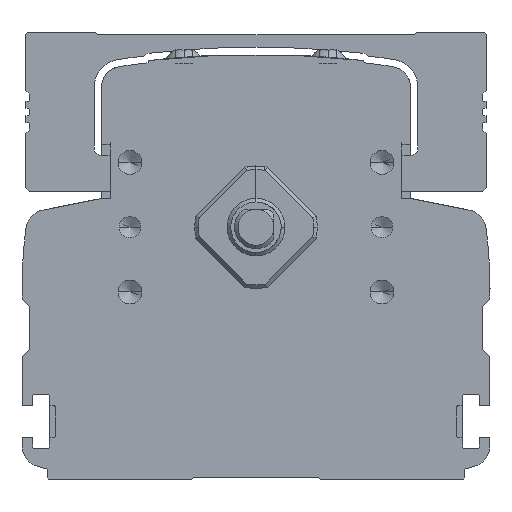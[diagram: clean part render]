
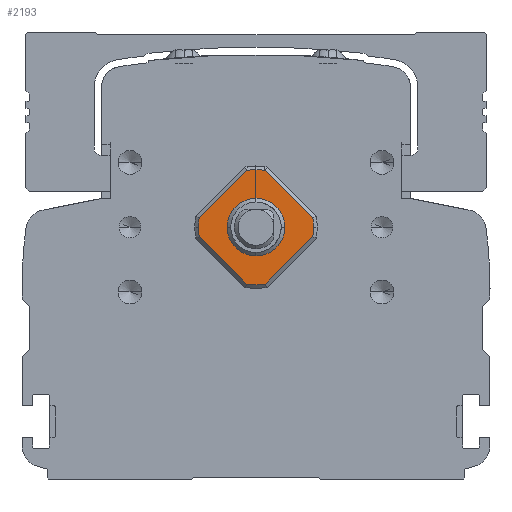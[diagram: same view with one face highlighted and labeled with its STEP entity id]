
A CAD part, front view. The second image highlights one B-rep face of the part: STEP entity #2193.
In plain terms, the highlighted planar face has unit normal (0, -1, 0).
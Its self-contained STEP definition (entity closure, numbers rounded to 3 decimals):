
#2193=ADVANCED_FACE('',(#5758,#5759),#5760,.T.);
#5758=FACE_OUTER_BOUND('',#11126,.T.);
#5759=FACE_BOUND('',#11127,.T.);
#5760=PLANE('',#11128);
#11126=EDGE_LOOP('',(#17394,#17395,#17396,#17397,#17398,#17399,#17400,#17401,#17402,#17403));
#11127=EDGE_LOOP('',(#17404,#17405));
#11128=AXIS2_PLACEMENT_3D('',#17406,#17407,#17408);
#17394=ORIENTED_EDGE('',*,*,#32389,.T.);
#17395=ORIENTED_EDGE('',*,*,#32390,.T.);
#17396=ORIENTED_EDGE('',*,*,#32391,.T.);
#17397=ORIENTED_EDGE('',*,*,#32392,.T.);
#17398=ORIENTED_EDGE('',*,*,#32393,.T.);
#17399=ORIENTED_EDGE('',*,*,#32394,.T.);
#17400=ORIENTED_EDGE('',*,*,#32395,.T.);
#17401=ORIENTED_EDGE('',*,*,#32396,.T.);
#17402=ORIENTED_EDGE('',*,*,#32397,.T.);
#17403=ORIENTED_EDGE('',*,*,#32398,.T.);
#17404=ORIENTED_EDGE('',*,*,#32399,.T.);
#17405=ORIENTED_EDGE('',*,*,#32400,.T.);
#17406=CARTESIAN_POINT('',(300.,33.,9.899));
#17407=DIRECTION('',(0.,-1.0,0.));
#17408=DIRECTION('',(1.0,0.,0.));
#32389=EDGE_CURVE('',#38703,#38704,#38705,.F.);
#32390=EDGE_CURVE('',#38704,#38706,#38707,.T.);
#32391=EDGE_CURVE('',#38706,#38708,#38709,.F.);
#32392=EDGE_CURVE('',#38708,#38710,#38711,.F.);
#32393=EDGE_CURVE('',#38710,#38712,#38713,.T.);
#32394=EDGE_CURVE('',#38712,#38714,#38715,.F.);
#32395=EDGE_CURVE('',#38714,#38716,#38717,.T.);
#32396=EDGE_CURVE('',#38716,#38718,#38719,.F.);
#32397=EDGE_CURVE('',#38718,#38720,#38721,.F.);
#32398=EDGE_CURVE('',#38720,#38703,#38722,.T.);
#32399=EDGE_CURVE('',#38723,#38724,#38725,.F.);
#32400=EDGE_CURVE('',#38724,#38723,#38726,.F.);
#38703=VERTEX_POINT('',#47797);
#38704=VERTEX_POINT('',#47798);
#38705=CIRCLE('',#47799,8.0);
#38706=VERTEX_POINT('',#47800);
#38707=LINE('',#47801,#47802);
#38708=VERTEX_POINT('',#47803);
#38709=CIRCLE('',#47804,8.0);
#38710=VERTEX_POINT('',#47805);
#38711=CIRCLE('',#47806,8.0);
#38712=VERTEX_POINT('',#47807);
#38713=LINE('',#47808,#47809);
#38714=VERTEX_POINT('',#47810);
#38715=CIRCLE('',#47811,8.0);
#38716=VERTEX_POINT('',#47812);
#38717=LINE('',#47813,#47814);
#38718=VERTEX_POINT('',#47815);
#38719=CIRCLE('',#47816,8.0);
#38720=VERTEX_POINT('',#47817);
#38721=CIRCLE('',#47818,8.0);
#38722=LINE('',#47819,#47820);
#38723=VERTEX_POINT('',#47821);
#38724=VERTEX_POINT('',#47822);
#38725=CIRCLE('',#47823,4.);
#38726=CIRCLE('',#47824,4.);
#47797=CARTESIAN_POINT('',(298.702,33.,-7.894));
#47798=CARTESIAN_POINT('',(301.298,33.,-7.894));
#47799=AXIS2_PLACEMENT_3D('',#59857,#59858,#59859);
#47800=CARTESIAN_POINT('',(307.894,33.,-1.298));
#47801=CARTESIAN_POINT('',(301.298,33.,-7.894));
#47802=VECTOR('',#59860,1000.0);
#47803=CARTESIAN_POINT('',(308.,33.,0.));
#47804=AXIS2_PLACEMENT_3D('',#59861,#59862,#59863);
#47805=CARTESIAN_POINT('',(307.894,33.,1.298));
#47806=AXIS2_PLACEMENT_3D('',#59864,#59865,#59866);
#47807=CARTESIAN_POINT('',(301.298,33.,7.894));
#47808=CARTESIAN_POINT('',(307.894,33.,1.298));
#47809=VECTOR('',#59867,1000.0);
#47810=CARTESIAN_POINT('',(298.702,33.,7.894));
#47811=AXIS2_PLACEMENT_3D('',#59868,#59869,#59870);
#47812=CARTESIAN_POINT('',(292.106,33.,1.298));
#47813=CARTESIAN_POINT('',(298.702,33.,7.894));
#47814=VECTOR('',#59871,1000.0);
#47815=CARTESIAN_POINT('',(292.,33.,0.));
#47816=AXIS2_PLACEMENT_3D('',#59872,#59873,#59874);
#47817=CARTESIAN_POINT('',(292.106,33.,-1.298));
#47818=AXIS2_PLACEMENT_3D('',#59875,#59876,#59877);
#47819=CARTESIAN_POINT('',(292.106,33.,-1.298));
#47820=VECTOR('',#59878,1000.0);
#47821=CARTESIAN_POINT('',(304.,33.,0.));
#47822=CARTESIAN_POINT('',(296.,33.,0.));
#47823=AXIS2_PLACEMENT_3D('',#59879,#59880,#59881);
#47824=AXIS2_PLACEMENT_3D('',#59882,#59883,#59884);
#59857=CARTESIAN_POINT('',(300.,33.,0.));
#59858=DIRECTION('',(0.,1.0,0.));
#59859=DIRECTION('',(-1.0,0.,0.));
#59860=DIRECTION('',(0.707,0.,0.707));
#59861=CARTESIAN_POINT('',(300.,33.,0.));
#59862=DIRECTION('',(0.,1.0,0.));
#59863=DIRECTION('',(-1.0,0.,0.));
#59864=CARTESIAN_POINT('',(300.,33.,0.));
#59865=DIRECTION('',(0.,1.0,0.));
#59866=DIRECTION('',(-1.0,0.,0.));
#59867=DIRECTION('',(-0.707,0.,0.707));
#59868=CARTESIAN_POINT('',(300.,33.,0.));
#59869=DIRECTION('',(0.,1.0,0.));
#59870=DIRECTION('',(-1.0,0.,0.));
#59871=DIRECTION('',(-0.707,0.,-0.707));
#59872=CARTESIAN_POINT('',(300.,33.,0.));
#59873=DIRECTION('',(0.,1.0,0.));
#59874=DIRECTION('',(-1.0,0.,0.));
#59875=CARTESIAN_POINT('',(300.,33.,0.));
#59876=DIRECTION('',(0.,1.0,0.));
#59877=DIRECTION('',(-1.0,0.,0.));
#59878=DIRECTION('',(0.707,0.,-0.707));
#59879=CARTESIAN_POINT('',(300.,33.,0.));
#59880=DIRECTION('',(0.,-1.0,0.));
#59881=DIRECTION('',(1.0,0.,0.));
#59882=CARTESIAN_POINT('',(300.,33.,0.));
#59883=DIRECTION('',(0.,-1.0,0.));
#59884=DIRECTION('',(1.0,0.,0.));
